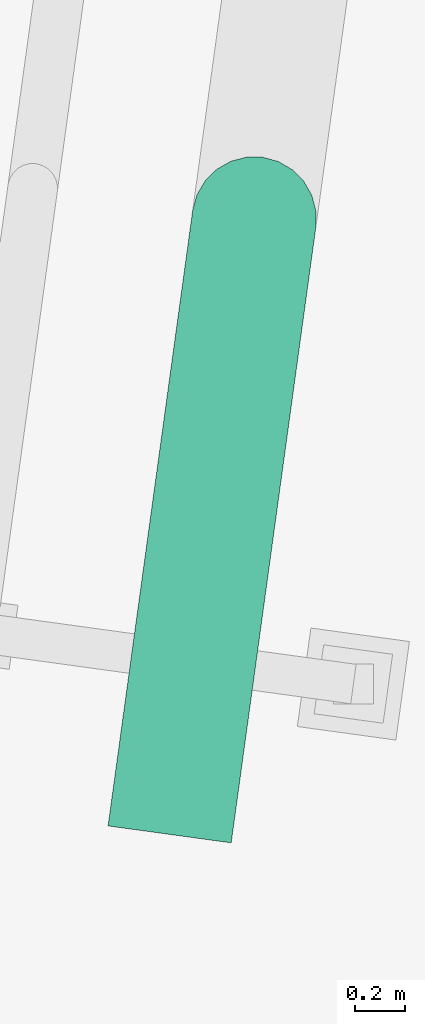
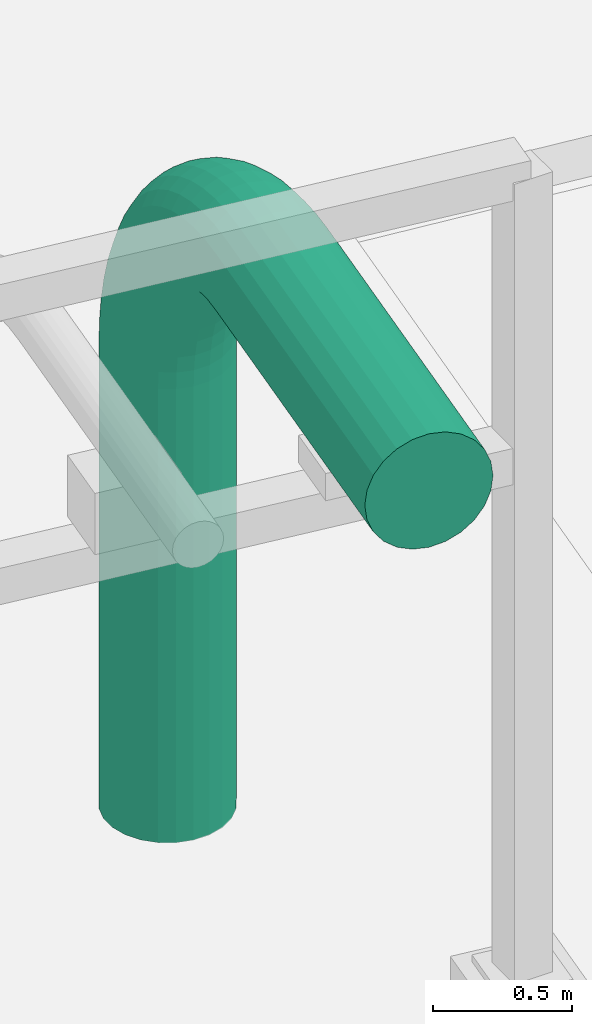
# Not in any storey, part 28 of 75: 1 pipe segment.
"""IFC4 model written with IfcOpenShell, lengths in metres."""

from ifc_helpers import new_model, si_unit, direction, origin, origin_with_axes, place, context, subcontext, project, spatial, triangles, element, save


model = new_model("IFC4")

# Units and contexts
model_context = context("Model", 3, precision=1e-05, world=origin_with_axes(), true_north=direction((0.0, 1.0)))
body_context = subcontext(model_context, "Body", "Model", "MODEL_VIEW")
ifc_project = project(units=[si_unit("AREAUNIT", "SQUARE_METRE"), si_unit("VOLUMEUNIT", "CUBIC_METRE"), si_unit("LENGTHUNIT", "METRE")], contexts=[model_context])

# Site
site_placement = place(None, origin_with_axes())
site = spatial("IfcSite", under=ifc_project, at=site_placement, Name="Parcela industrial Jinhong")

# Pipe segment
pipe_segment_placement = place(None, origin())
element("IfcPipeSegment", 1, at=pipe_segment_placement, inside=site, Name="Nitrógeno Ø 0,5 m · salida exterior", ObjectType="Nitrógeno Ø 0,5 m · salida exterior", PredefinedType="USERDEFINED", context=body_context, shape_type="Tessellation", body=[
    triangles([(52.224227, -13.923038, 0.917728), (52.224601, -13.857776, 0.917728), (52.208071, -13.794641, 0.917728), (52.175763, -13.737935, 0.917728), (52.129881, -13.691524, 0.917728), (52.073549, -13.658569, 0.917728), (52.010607, -13.641317, 0.917728), (51.945345, -13.640943, 0.917728), (51.88221, -13.657473, 0.917728), (51.825505, -13.68978, 0.917728), (51.779093, -13.735663, 0.917728), (51.746138, -13.791994, 0.917728), (51.728886, -13.854936, 0.917728), (51.728512, -13.920198, 0.917728), (51.745042, -13.983333, 0.917728), (51.77735, -14.040038, 0.917728), (51.823232, -14.08645, 0.917728), (51.879564, -14.119405, 0.917728), (51.942505, -14.136657, 0.917728), (52.007768, -14.137031, 0.917728), (52.070903, -14.120501, 0.917728), (52.127608, -14.088194, 0.917728), (52.17402, -14.042311, 0.917728), (52.206974, -13.985979, 0.917728), (52.224227, -13.923038, 2.917728), (52.224601, -13.857776, 2.917877), (52.208071, -13.794641, 2.918015), (52.175763, -13.737936, 2.918134), (52.12988, -13.691524, 2.918225), (52.073549, -13.658569, 2.918283), (52.010607, -13.641317, 2.918302), (51.945345, -13.640943, 2.918283), (51.88221, -13.657473, 2.918225), (51.825505, -13.68978, 2.918134), (51.779093, -13.735663, 2.918015), (51.746138, -13.791995, 2.917877), (51.728886, -13.854936, 2.917728), (51.728512, -13.920198, 2.91758), (51.745042, -13.983333, 2.917442), (51.77735, -14.040038, 2.917323), (51.823232, -14.08645, 2.917232), (51.879564, -14.119404, 2.917174), (51.942506, -14.136656, 2.917155), (52.007768, -14.13703, 2.917174), (52.070903, -14.1205, 2.917232), (52.127608, -14.088193, 2.917323), (52.17402, -14.042311, 2.917442), (52.206974, -13.985979, 2.91758), (52.223571, -13.927808, 3.015746), (52.223902, -13.862855, 3.022088), (52.207333, -13.800007, 3.027998), (52.174992, -13.743549, 3.033073), (52.129083, -13.697327, 3.036967), (52.072735, -13.664491, 3.039415), (52.009788, -13.64728, 3.04025), (51.944531, -13.646865, 3.039415), (51.881413, -13.663276, 3.036967), (51.824733, -13.695394, 3.033073), (51.778355, -13.741029, 3.027998), (51.74544, -13.797073, 3.022088), (51.72823, -13.859706, 3.015746), (51.727899, -13.92466, 3.009403), (51.744468, -13.987507, 3.003493), (51.77681, -14.043966, 2.998418), (51.822718, -14.090188, 2.994524), (51.879067, -14.123023, 2.992076), (51.942014, -14.140235, 2.991241), (52.00727, -14.140649, 2.992076), (52.070389, -14.124239, 2.994524), (52.127068, -14.092121, 2.998418), (52.173446, -14.046485, 3.003493), (52.206361, -13.990441, 3.009403), (52.22161, -13.942074, 3.112819), (52.221814, -13.878043, 3.125442), (52.205126, -13.816056, 3.137205), (52.172684, -13.760336, 3.147306), (52.126697, -13.714681, 3.155057), (52.0703, -13.682201, 3.159929), (52.007336, -13.665111, 3.161591), (51.942096, -13.664575, 3.159929), (51.879027, -13.68063, 3.155057), (51.822425, -13.712181, 3.147306), (51.776149, -13.757078, 3.137205), (51.743352, -13.812262, 3.125442), (51.726269, -13.873972, 3.112819), (51.726065, -13.938002, 3.100195), (51.742752, -13.999989, 3.088432), (51.775195, -14.055709, 3.078331), (51.821182, -14.101364, 3.07058), (51.877579, -14.133844, 3.065708), (51.940543, -14.150934, 3.064046), (52.005782, -14.15147, 3.065708), (52.068852, -14.135415, 3.07058), (52.125454, -14.103864, 3.078331), (52.17173, -14.058967, 3.088432), (52.204527, -14.003783, 3.100195), (52.218362, -13.965696, 3.208013), (52.218356, -13.903194, 3.226796), (52.201473, -13.842631, 3.244299), (52.168862, -13.788135, 3.259329), (52.122746, -13.743418, 3.270862), (52.066268, -13.711528, 3.278111), (52.003276, -13.69464, 3.280584), (51.938064, -13.693902, 3.278111), (51.875076, -13.709367, 3.270862), (51.818603, -13.739979, 3.259329), (51.772495, -13.783653, 3.244299), (51.739894, -13.837413, 3.226796), (51.723021, -13.897594, 3.208013), (51.723027, -13.960096, 3.18923), (51.739911, -14.020659, 3.171728), (51.772521, -14.075156, 3.156698), (51.818637, -14.119873, 3.145165), (51.875115, -14.151762, 3.137915), (51.938107, -14.168651, 3.135442), (52.003319, -14.169388, 3.137915), (52.066307, -14.153924, 3.145165), (52.12278, -14.123311, 3.156698), (52.168888, -14.079637, 3.171728), (52.201489, -14.025878, 3.18923), (52.213859, -13.998449, 3.300412), (52.213562, -13.938066, 3.325173), (52.196407, -13.879478, 3.348247), (52.163563, -13.826677, 3.368061), (52.117268, -13.783262, 3.383265), (52.060677, -13.75219, 3.392823), (51.997648, -13.735581, 3.396083), (51.932474, -13.734564, 3.392823), (51.869598, -13.749211, 3.383265), (51.813304, -13.778522, 3.368061), (51.767429, -13.8205, 3.348247), (51.7351, -13.872285, 3.325173), (51.718518, -13.930347, 3.300412), (51.718815, -13.99073, 3.27565), (51.73597, -14.049318, 3.252576), (51.768814, -14.102119, 3.232762), (51.815109, -14.145534, 3.217558), (51.8717, -14.176606, 3.208001), (51.93473, -14.193215, 3.204741), (51.999903, -14.194232, 3.208001), (52.062779, -14.179585, 3.217558), (52.119073, -14.150274, 3.232762), (52.164948, -14.108296, 3.252576), (52.197277, -14.056511, 3.27565), (52.208144, -14.040016, 3.389125), (52.207477, -13.982323, 3.419627), (52.189978, -13.926241, 3.44805), (52.156838, -13.875593, 3.472457), (52.110316, -13.833829, 3.491186), (52.053582, -13.803795, 3.502959), (51.990504, -13.78754, 3.506974), (51.925379, -13.786169, 3.502959), (51.862646, -13.799778, 3.491186), (51.806579, -13.827437, 3.472457), (51.761, -13.867263, 3.44805), (51.729015, -13.916542, 3.419627), (51.712803, -13.971914, 3.389125), (51.71347, -14.029607, 3.358624), (51.73097, -14.085689, 3.330201), (51.76411, -14.136338, 3.305793), (51.810632, -14.178102, 3.287065), (51.867365, -14.208135, 3.275292), (51.930443, -14.224391, 3.271276), (51.995568, -14.225761, 3.275292), (52.058302, -14.212153, 3.287065), (52.114368, -14.184493, 3.305793), (52.159947, -14.144667, 3.330201), (52.191932, -14.095389, 3.358624), (52.201272, -14.089998, 3.473299), (52.200161, -14.035539, 3.509247), (52.182247, -13.982471, 3.542745), (52.148751, -13.93441, 3.571511), (52.101956, -13.894631, 3.593583), (52.045051, -13.865846, 3.607459), (51.981914, -13.850016, 3.612191), (51.916848, -13.84822, 3.607459), (51.854286, -13.86058, 3.593583), (51.798493, -13.886254, 3.571511), (51.753269, -13.923493, 3.542745), (51.721699, -13.969757, 3.509247), (51.705932, -14.021896, 3.473299), (51.707043, -14.076355, 3.437351), (51.724957, -14.129423, 3.403852), (51.758453, -14.177484, 3.375087), (51.805248, -14.217262, 3.353014), (51.862153, -14.246047, 3.339139), (51.92529, -14.261877, 3.334406), (51.990356, -14.263673, 3.339139), (52.052918, -14.251313, 3.353014), (52.108711, -14.225639, 3.375087), (52.153934, -14.188401, 3.403852), (52.185505, -14.142136, 3.437351), (52.19331, -14.147912, 3.552122), (52.191683, -14.0972, 3.59317), (52.173289, -14.047624, 3.631421), (52.139381, -14.002562, 3.664268), (52.09227, -13.965085, 3.689472), (52.035166, -13.937746, 3.705316), (51.971961, -13.922409, 3.71072), (51.906963, -13.92012, 3.705316), (51.8446, -13.931034, 3.689472), (51.789123, -13.954407, 3.664268), (51.744312, -13.988646, 3.631421), (51.713221, -14.031419, 3.59317), (51.697969, -14.07981, 3.552122), (51.699596, -14.130522, 3.511073), (51.71799, -14.180098, 3.472823), (51.751898, -14.22516, 3.439976), (51.799009, -14.262638, 3.414772), (51.856113, -14.289976, 3.398928), (51.919318, -14.305313, 3.393523), (51.984317, -14.307602, 3.398928), (52.046679, -14.296689, 3.414772), (52.102157, -14.273316, 3.439976), (52.146967, -14.239076, 3.472823), (52.178058, -14.196303, 3.511073), (52.184333, -14.213202, 3.624835), (52.182126, -14.166714, 3.670588), (52.163191, -14.121075, 3.713224), (52.128818, -14.079393, 3.749835), (52.08135, -14.04451, 3.777928), (52.024022, -14.018802, 3.795588), (51.960741, -14.004021, 3.801612), (51.895819, -14.001176, 3.795588), (51.83368, -14.010459, 3.777928), (51.778559, -14.031238, 3.749835), (51.734213, -14.062097, 3.713224), (51.703664, -14.100933, 3.670588), (51.688993, -14.1451, 3.624835), (51.6912, -14.191587, 3.579082), (51.710136, -14.237226, 3.536447), (51.744509, -14.278908, 3.499835), (51.791976, -14.313791, 3.471742), (51.849304, -14.339499, 3.454082), (51.912586, -14.35428, 3.448059), (51.977508, -14.357126, 3.454082), (52.039646, -14.347842, 3.471742), (52.094767, -14.327063, 3.499835), (52.139113, -14.296204, 3.536447), (52.169663, -14.257368, 3.579082), (52.17443, -14.285237, 3.690739), (52.171581, -14.243411, 3.740756), (52.152049, -14.202115, 3.787365), (52.117163, -14.164163, 3.827389), (52.069302, -14.132142, 3.858101), (52.011727, -14.108233, 3.877407), (51.948361, -14.094066, 3.883992), (51.883523, -14.090607, 3.877407), (51.821632, -14.098091, 3.858101), (51.766905, -14.116008, 3.827389), (51.723072, -14.143137, 3.787365), (51.693119, -14.17763, 3.740756), (51.679089, -14.217135, 3.690739), (51.681937, -14.258961, 3.640721), (51.70147, -14.300258, 3.594113), (51.736355, -14.33821, 3.554089), (51.784217, -14.370231, 3.523377), (51.841792, -14.39414, 3.504071), (51.905158, -14.408307, 3.497486), (51.969996, -14.411766, 3.504071), (52.031887, -14.404282, 3.523377), (52.086614, -14.386365, 3.554089), (52.130447, -14.359236, 3.594113), (52.1604, -14.324743, 3.640721), (52.163694, -14.363326, 3.749198), (52.160151, -14.326553, 3.802998), (52.139971, -14.289965, 3.853132), (52.10453, -14.256056, 3.896182), (52.056242, -14.227137, 3.929217), (51.998398, -14.205178, 3.949983), (51.934941, -14.191677, 3.957065), (51.870195, -14.187552, 3.949983), (51.808572, -14.193086, 3.929217), (51.754271, -14.207901, 3.896182), (51.710994, -14.230987, 3.853132), (51.681689, -14.260771, 3.802998), (51.668353, -14.295224, 3.749198), (51.671896, -14.331997, 3.695398), (51.692076, -14.368585, 3.645264), (51.727517, -14.402494, 3.602214), (51.775805, -14.431413, 3.56918), (51.833649, -14.453372, 3.548414), (51.897106, -14.466873, 3.541331), (51.961852, -14.470998, 3.548414), (52.023475, -14.465464, 3.56918), (52.077776, -14.450649, 3.602214), (52.121053, -14.427563, 3.645264), (52.150358, -14.397779, 3.695398), (52.152229, -14.446715, 3.79965), (52.147944, -14.415337, 3.856714), (52.127073, -14.383778, 3.90989), (52.091038, -14.354186, 3.955553), (52.042295, -14.32858, 3.990591), (51.984165, -14.308704, 4.012617), (51.92061, -14.295913, 4.02013), (51.855961, -14.291078, 4.012617), (51.794625, -14.294529, 3.990591), (51.74078, -14.306031, 3.955553), (51.698096, -14.3248, 3.90989), (51.669482, -14.349556, 3.856714), (51.656888, -14.378613, 3.79965), (51.661173, -14.409991, 3.742585), (51.682044, -14.44155, 3.68941), (51.718079, -14.471142, 3.643747), (51.766823, -14.496748, 3.608708), (51.824952, -14.516624, 3.586682), (51.888507, -14.529415, 3.579169), (51.953156, -14.53425, 3.586682), (52.014493, -14.530799, 3.608708), (52.068338, -14.519297, 3.643747), (52.111022, -14.500528, 3.68941), (52.139635, -14.475772, 3.742585), (52.140146, -14.534602, 3.841608), (52.135079, -14.508911, 3.901387), (52.11348, -14.48265, 3.957093), (52.076819, -14.457609, 4.004928), (52.027596, -14.435495, 4.041634), (51.969164, -14.417814, 4.064708), (51.905506, -14.405771, 4.072578), (51.840961, -14.400188, 4.064708), (51.779925, -14.401444, 4.041634), (51.72656, -14.409454, 4.004928), (51.684502, -14.423672, 3.957093), (51.656617, -14.443129, 3.901387), (51.644805, -14.4665, 3.841608), (51.649872, -14.492191, 3.781829), (51.671471, -14.518451, 3.726123), (51.708132, -14.543492, 3.678288), (51.757355, -14.565606, 3.641582), (51.815787, -14.583287, 3.618508), (51.879445, -14.59533, 3.610638), (51.943991, -14.600913, 3.618508), (52.005026, -14.599657, 3.641582), (52.058391, -14.591647, 3.678288), (52.100449, -14.577429, 3.726123), (52.128334, -14.557972, 3.781829), (52.127561, -14.626139, 3.874669), (52.12168, -14.606371, 3.936587), (52.099321, -14.58563, 3.994286), (52.062009, -14.565329, 4.043834), (52.012286, -14.546851, 4.081852), (51.95354, -14.531456, 4.105752), (51.889775, -14.520193, 4.113904), (51.825336, -14.51383, 4.105752), (51.764616, -14.5128, 4.081852), (51.711751, -14.517173, 4.043834), (51.670344, -14.526652, 3.994286), (51.643218, -14.54059, 3.936587), (51.63222, -14.558037, 3.874669), (51.638101, -14.577805, 3.81275), (51.66046, -14.598547, 3.755051), (51.697772, -14.618848, 3.705504), (51.747495, -14.637326, 3.667485), (51.806241, -14.65272, 3.643585), (51.870006, -14.663983, 3.635434), (51.934445, -14.670346, 3.643585), (51.995165, -14.671377, 3.667485), (52.04803, -14.667003, 3.705504), (52.089437, -14.657525, 3.755051), (52.116563, -14.643587, 3.81275), (52.114595, -14.720446, 3.898514), (52.107875, -14.706781, 3.961975), (52.084735, -14.691725, 4.021112), (52.046751, -14.676307, 4.071894), (51.996513, -14.661576, 4.11086), (51.937443, -14.648537, 4.135355), (51.873568, -14.638077, 4.14371), (51.80924, -14.630911, 4.135355), (51.748843, -14.627525, 4.11086), (51.696493, -14.628152, 4.071894), (51.655757, -14.632747, 4.021112), (51.629413, -14.640999, 3.961975), (51.619254, -14.652344, 3.898514), (51.625974, -14.66601, 3.835052), (51.649114, -14.681065, 3.775916), (51.687098, -14.696484, 3.725134), (51.737337, -14.711215, 3.686167), (51.796406, -14.724254, 3.661672), (51.860282, -14.734714, 3.653317), (51.92461, -14.74188, 3.661672), (51.985007, -14.745266, 3.686167), (52.037357, -14.744639, 3.725134), (52.078092, -14.740044, 3.775916), (52.104436, -14.731792, 3.835052), (52.101373, -14.816615, 3.912913), (52.093798, -14.809172, 3.977306), (52.06986, -14.799915, 4.037311), (52.031192, -14.789476, 4.088839), (51.980428, -14.778566, 4.128377), (51.921029, -14.767928, 4.153232), (51.85704, -14.758288, 4.161709), (51.792825, -14.750302, 4.153232), (51.732758, -14.744515, 4.128377), (51.680934, -14.741321, 4.088839), (51.640883, -14.740937, 4.037311), (51.615336, -14.74339, 3.977306), (51.606033, -14.748513, 3.912913), (51.613608, -14.755956, 3.84852), (51.637545, -14.765213, 3.788515), (51.676214, -14.775652, 3.736988), (51.726977, -14.786562, 3.697449), (51.786377, -14.7972, 3.672595), (51.850365, -14.80684, 3.664117), (51.914581, -14.814826, 3.672595), (51.974648, -14.820613, 3.697449), (52.026472, -14.823807, 3.736988), (52.066523, -14.824191, 3.788515), (52.09207, -14.821738, 3.84852), (52.088023, -14.913719, 3.917728), (52.07961, -14.912365, 3.982433), (52.054893, -14.908784, 4.042728), (52.015554, -14.903218, 4.094504), (51.964277, -14.896047, 4.134234), (51.904553, -14.88776, 4.159209), (51.840455, -14.878921, 4.167727), (51.77635, -14.870134, 4.159209), (51.716606, -14.861996, 4.134234), (51.665296, -14.855062, 4.094504), (51.625915, -14.849806, 4.042728), (51.601148, -14.846584, 3.982433), (51.592682, -14.845617, 3.917728), (51.601095, -14.84697, 3.853024), (51.625813, -14.850552, 3.792729), (51.665151, -14.856118, 3.740953), (51.716429, -14.863289, 3.701223), (51.776152, -14.871576, 3.676248), (51.84025, -14.880414, 3.66773), (51.904355, -14.889202, 3.676248), (51.964099, -14.89734, 3.701223), (52.015409, -14.904273, 3.740953), (52.05479, -14.90953, 3.792729), (52.079557, -14.912752, 3.853024), (51.883717, -16.39974, 3.917728), (51.875278, -16.39858, 3.982433), (51.850535, -16.395178, 4.042728), (51.811176, -16.389767, 4.094505), (51.759882, -16.382714, 4.134235), (51.700149, -16.374502, 4.15921), (51.636047, -16.365689, 4.167728), (51.571945, -16.356876, 4.15921), (51.512212, -16.348663, 4.134235), (51.460917, -16.341611, 4.094505), (51.421558, -16.3362, 4.042728), (51.396816, -16.332798, 3.982433), (51.388377, -16.331638, 3.917728), (51.396816, -16.332798, 3.853024), (51.421558, -16.3362, 3.792728), (51.460917, -16.341611, 3.740952), (51.512212, -16.348663, 3.701222), (51.571945, -16.356876, 3.676247), (51.636047, -16.365689, 3.667728), (51.700149, -16.374502, 3.676247), (51.759882, -16.382714, 3.701222), (51.811176, -16.389767, 3.740952), (51.850535, -16.395178, 3.792728), (51.875278, -16.39858, 3.853024), (51.976556, -13.888987, 0.917728), (51.636047, -16.365689, 3.917728)], [[1, 2, 26], [1, 26, 25], [2, 3, 27], [2, 27, 26], [3, 4, 28], [3, 28, 27], [4, 5, 29], [4, 29, 28], [5, 6, 30], [5, 30, 29], [6, 7, 31], [6, 31, 30], [7, 8, 32], [7, 32, 31], [8, 9, 33], [8, 33, 32], [9, 10, 34], [9, 34, 33], [10, 11, 35], [10, 35, 34], [11, 12, 36], [11, 36, 35], [12, 13, 37], [12, 37, 36], [13, 14, 38], [13, 38, 37], [14, 15, 39], [14, 39, 38], [15, 16, 40], [15, 40, 39], [16, 17, 41], [16, 41, 40], [17, 18, 42], [17, 42, 41], [18, 19, 43], [18, 43, 42], [19, 20, 44], [19, 44, 43], [20, 21, 45], [20, 45, 44], [21, 22, 46], [21, 46, 45], [22, 23, 47], [22, 47, 46], [23, 24, 48], [23, 48, 47], [24, 1, 25], [24, 25, 48], [25, 26, 50], [25, 50, 49], [26, 27, 51], [26, 51, 50], [27, 28, 52], [27, 52, 51], [28, 29, 53], [28, 53, 52], [29, 30, 54], [29, 54, 53], [30, 31, 55], [30, 55, 54], [31, 32, 56], [31, 56, 55], [32, 33, 57], [32, 57, 56], [33, 34, 58], [33, 58, 57], [34, 35, 59], [34, 59, 58], [35, 36, 60], [35, 60, 59], [36, 37, 61], [36, 61, 60], [37, 38, 62], [37, 62, 61], [38, 39, 63], [38, 63, 62], [39, 40, 64], [39, 64, 63], [40, 41, 65], [40, 65, 64], [41, 42, 66], [41, 66, 65], [42, 43, 67], [42, 67, 66], [43, 44, 68], [43, 68, 67], [44, 45, 69], [44, 69, 68], [45, 46, 70], [45, 70, 69], [46, 47, 71], [46, 71, 70], [47, 48, 72], [47, 72, 71], [48, 25, 49], [48, 49, 72], [49, 50, 74], [49, 74, 73], [50, 51, 75], [50, 75, 74], [51, 52, 76], [51, 76, 75], [52, 53, 77], [52, 77, 76], [53, 54, 78], [53, 78, 77], [54, 55, 79], [54, 79, 78], [55, 56, 80], [55, 80, 79], [56, 57, 81], [56, 81, 80], [57, 58, 82], [57, 82, 81], [58, 59, 83], [58, 83, 82], [59, 60, 84], [59, 84, 83], [60, 61, 85], [60, 85, 84], [61, 62, 86], [61, 86, 85], [62, 63, 87], [62, 87, 86], [63, 64, 88], [63, 88, 87], [64, 65, 89], [64, 89, 88], [65, 66, 90], [65, 90, 89], [66, 67, 91], [66, 91, 90], [67, 68, 92], [67, 92, 91], [68, 69, 93], [68, 93, 92], [69, 70, 94], [69, 94, 93], [70, 71, 95], [70, 95, 94], [71, 72, 96], [71, 96, 95], [72, 49, 73], [72, 73, 96], [73, 74, 98], [73, 98, 97], [74, 75, 99], [74, 99, 98], [75, 76, 100], [75, 100, 99], [76, 77, 101], [76, 101, 100], [77, 78, 102], [77, 102, 101], [78, 79, 103], [78, 103, 102], [79, 80, 104], [79, 104, 103], [80, 81, 105], [80, 105, 104], [81, 82, 106], [81, 106, 105], [82, 83, 107], [82, 107, 106], [83, 84, 108], [83, 108, 107], [84, 85, 109], [84, 109, 108], [85, 86, 110], [85, 110, 109], [86, 87, 111], [86, 111, 110], [87, 88, 112], [87, 112, 111], [88, 89, 113], [88, 113, 112], [89, 90, 114], [89, 114, 113], [90, 91, 115], [90, 115, 114], [91, 92, 116], [91, 116, 115], [92, 93, 117], [92, 117, 116], [93, 94, 118], [93, 118, 117], [94, 95, 119], [94, 119, 118], [95, 96, 120], [95, 120, 119], [96, 73, 97], [96, 97, 120], [97, 98, 122], [97, 122, 121], [98, 99, 123], [98, 123, 122], [99, 100, 124], [99, 124, 123], [100, 101, 125], [100, 125, 124], [101, 102, 126], [101, 126, 125], [102, 103, 127], [102, 127, 126], [103, 104, 128], [103, 128, 127], [104, 105, 129], [104, 129, 128], [105, 106, 130], [105, 130, 129], [106, 107, 131], [106, 131, 130], [107, 108, 132], [107, 132, 131], [108, 109, 133], [108, 133, 132], [109, 110, 134], [109, 134, 133], [110, 111, 135], [110, 135, 134], [111, 112, 136], [111, 136, 135], [112, 113, 137], [112, 137, 136], [113, 114, 138], [113, 138, 137], [114, 115, 139], [114, 139, 138], [115, 116, 140], [115, 140, 139], [116, 117, 141], [116, 141, 140], [117, 118, 142], [117, 142, 141], [118, 119, 143], [118, 143, 142], [119, 120, 144], [119, 144, 143], [120, 97, 121], [120, 121, 144], [121, 122, 146], [121, 146, 145], [122, 123, 147], [122, 147, 146], [123, 124, 148], [123, 148, 147], [124, 125, 149], [124, 149, 148], [125, 126, 150], [125, 150, 149], [126, 127, 151], [126, 151, 150], [127, 128, 152], [127, 152, 151], [128, 129, 153], [128, 153, 152], [129, 130, 154], [129, 154, 153], [130, 131, 155], [130, 155, 154], [131, 132, 156], [131, 156, 155], [132, 133, 157], [132, 157, 156], [133, 134, 158], [133, 158, 157], [134, 135, 159], [134, 159, 158], [135, 136, 160], [135, 160, 159], [136, 137, 161], [136, 161, 160], [137, 138, 162], [137, 162, 161], [138, 139, 163], [138, 163, 162], [139, 140, 164], [139, 164, 163], [140, 141, 165], [140, 165, 164], [141, 142, 166], [141, 166, 165], [142, 143, 167], [142, 167, 166], [143, 144, 168], [143, 168, 167], [144, 121, 145], [144, 145, 168], [145, 146, 170], [145, 170, 169], [146, 147, 171], [146, 171, 170], [147, 148, 172], [147, 172, 171], [148, 149, 173], [148, 173, 172], [149, 150, 174], [149, 174, 173], [150, 151, 175], [150, 175, 174], [151, 152, 176], [151, 176, 175], [152, 153, 177], [152, 177, 176], [153, 154, 178], [153, 178, 177], [154, 155, 179], [154, 179, 178], [155, 156, 180], [155, 180, 179], [156, 157, 181], [156, 181, 180], [157, 158, 182], [157, 182, 181], [158, 159, 183], [158, 183, 182], [159, 160, 184], [159, 184, 183], [160, 161, 185], [160, 185, 184], [161, 162, 186], [161, 186, 185], [162, 163, 187], [162, 187, 186], [163, 164, 188], [163, 188, 187], [164, 165, 189], [164, 189, 188], [165, 166, 190], [165, 190, 189], [166, 167, 191], [166, 191, 190], [167, 168, 192], [167, 192, 191], [168, 145, 169], [168, 169, 192], [169, 170, 194], [169, 194, 193], [170, 171, 195], [170, 195, 194], [171, 172, 196], [171, 196, 195], [172, 173, 197], [172, 197, 196], [173, 174, 198], [173, 198, 197], [174, 175, 199], [174, 199, 198], [175, 176, 200], [175, 200, 199], [176, 177, 201], [176, 201, 200], [177, 178, 202], [177, 202, 201], [178, 179, 203], [178, 203, 202], [179, 180, 204], [179, 204, 203], [180, 181, 205], [180, 205, 204], [181, 182, 206], [181, 206, 205], [182, 183, 207], [182, 207, 206], [183, 184, 208], [183, 208, 207], [184, 185, 209], [184, 209, 208], [185, 186, 210], [185, 210, 209], [186, 187, 211], [186, 211, 210], [187, 188, 212], [187, 212, 211], [188, 189, 213], [188, 213, 212], [189, 190, 214], [189, 214, 213], [190, 191, 215], [190, 215, 214], [191, 192, 216], [191, 216, 215], [192, 169, 193], [192, 193, 216], [193, 194, 218], [193, 218, 217], [194, 195, 219], [194, 219, 218], [195, 196, 220], [195, 220, 219], [196, 197, 221], [196, 221, 220], [197, 198, 222], [197, 222, 221], [198, 199, 223], [198, 223, 222], [199, 200, 224], [199, 224, 223], [200, 201, 225], [200, 225, 224], [201, 202, 226], [201, 226, 225], [202, 203, 227], [202, 227, 226], [203, 204, 228], [203, 228, 227], [204, 205, 229], [204, 229, 228], [205, 206, 230], [205, 230, 229], [206, 207, 231], [206, 231, 230], [207, 208, 232], [207, 232, 231], [208, 209, 233], [208, 233, 232], [209, 210, 234], [209, 234, 233], [210, 211, 235], [210, 235, 234], [211, 212, 236], [211, 236, 235], [212, 213, 237], [212, 237, 236], [213, 214, 238], [213, 238, 237], [214, 215, 239], [214, 239, 238], [215, 216, 240], [215, 240, 239], [216, 193, 217], [216, 217, 240], [217, 218, 242], [217, 242, 241], [218, 219, 243], [218, 243, 242], [219, 220, 244], [219, 244, 243], [220, 221, 245], [220, 245, 244], [221, 222, 246], [221, 246, 245], [222, 223, 247], [222, 247, 246], [223, 224, 248], [223, 248, 247], [224, 225, 249], [224, 249, 248], [225, 226, 250], [225, 250, 249], [226, 227, 251], [226, 251, 250], [227, 228, 252], [227, 252, 251], [228, 229, 253], [228, 253, 252], [229, 230, 254], [229, 254, 253], [230, 231, 255], [230, 255, 254], [231, 232, 256], [231, 256, 255], [232, 233, 257], [232, 257, 256], [233, 234, 258], [233, 258, 257], [234, 235, 259], [234, 259, 258], [235, 236, 260], [235, 260, 259], [236, 237, 261], [236, 261, 260], [237, 238, 262], [237, 262, 261], [238, 239, 263], [238, 263, 262], [239, 240, 264], [239, 264, 263], [240, 217, 241], [240, 241, 264], [241, 242, 266], [241, 266, 265], [242, 243, 267], [242, 267, 266], [243, 244, 268], [243, 268, 267], [244, 245, 269], [244, 269, 268], [245, 246, 270], [245, 270, 269], [246, 247, 271], [246, 271, 270], [247, 248, 272], [247, 272, 271], [248, 249, 273], [248, 273, 272], [249, 250, 274], [249, 274, 273], [250, 251, 275], [250, 275, 274], [251, 252, 276], [251, 276, 275], [252, 253, 277], [252, 277, 276], [253, 254, 278], [253, 278, 277], [254, 255, 279], [254, 279, 278], [255, 256, 280], [255, 280, 279], [256, 257, 281], [256, 281, 280], [257, 258, 282], [257, 282, 281], [258, 259, 283], [258, 283, 282], [259, 260, 284], [259, 284, 283], [260, 261, 285], [260, 285, 284], [261, 262, 286], [261, 286, 285], [262, 263, 287], [262, 287, 286], [263, 264, 288], [263, 288, 287], [264, 241, 265], [264, 265, 288], [265, 266, 290], [265, 290, 289], [266, 267, 291], [266, 291, 290], [267, 268, 292], [267, 292, 291], [268, 269, 293], [268, 293, 292], [269, 270, 294], [269, 294, 293], [270, 271, 295], [270, 295, 294], [271, 272, 296], [271, 296, 295], [272, 273, 297], [272, 297, 296], [273, 274, 298], [273, 298, 297], [274, 275, 299], [274, 299, 298], [275, 276, 300], [275, 300, 299], [276, 277, 301], [276, 301, 300], [277, 278, 302], [277, 302, 301], [278, 279, 303], [278, 303, 302], [279, 280, 304], [279, 304, 303], [280, 281, 305], [280, 305, 304], [281, 282, 306], [281, 306, 305], [282, 283, 307], [282, 307, 306], [283, 284, 308], [283, 308, 307], [284, 285, 309], [284, 309, 308], [285, 286, 310], [285, 310, 309], [286, 287, 311], [286, 311, 310], [287, 288, 312], [287, 312, 311], [288, 265, 289], [288, 289, 312], [289, 290, 314], [289, 314, 313], [290, 291, 315], [290, 315, 314], [291, 292, 316], [291, 316, 315], [292, 293, 317], [292, 317, 316], [293, 294, 318], [293, 318, 317], [294, 295, 319], [294, 319, 318], [295, 296, 320], [295, 320, 319], [296, 297, 321], [296, 321, 320], [297, 298, 322], [297, 322, 321], [298, 299, 323], [298, 323, 322], [299, 300, 324], [299, 324, 323], [300, 301, 325], [300, 325, 324], [301, 302, 326], [301, 326, 325], [302, 303, 327], [302, 327, 326], [303, 304, 328], [303, 328, 327], [304, 305, 329], [304, 329, 328], [305, 306, 330], [305, 330, 329], [306, 307, 331], [306, 331, 330], [307, 308, 332], [307, 332, 331], [308, 309, 333], [308, 333, 332], [309, 310, 334], [309, 334, 333], [310, 311, 335], [310, 335, 334], [311, 312, 336], [311, 336, 335], [312, 289, 313], [312, 313, 336], [313, 314, 338], [313, 338, 337], [314, 315, 339], [314, 339, 338], [315, 316, 340], [315, 340, 339], [316, 317, 341], [316, 341, 340], [317, 318, 342], [317, 342, 341], [318, 319, 343], [318, 343, 342], [319, 320, 344], [319, 344, 343], [320, 321, 345], [320, 345, 344], [321, 322, 346], [321, 346, 345], [322, 323, 347], [322, 347, 346], [323, 324, 348], [323, 348, 347], [324, 325, 349], [324, 349, 348], [325, 326, 350], [325, 350, 349], [326, 327, 351], [326, 351, 350], [327, 328, 352], [327, 352, 351], [328, 329, 353], [328, 353, 352], [329, 330, 354], [329, 354, 353], [330, 331, 355], [330, 355, 354], [331, 332, 356], [331, 356, 355], [332, 333, 357], [332, 357, 356], [333, 334, 358], [333, 358, 357], [334, 335, 359], [334, 359, 358], [335, 336, 360], [335, 360, 359], [336, 313, 337], [336, 337, 360], [337, 338, 362], [337, 362, 361], [338, 339, 363], [338, 363, 362], [339, 340, 364], [339, 364, 363], [340, 341, 365], [340, 365, 364], [341, 342, 366], [341, 366, 365], [342, 343, 367], [342, 367, 366], [343, 344, 368], [343, 368, 367], [344, 345, 369], [344, 369, 368], [345, 346, 370], [345, 370, 369], [346, 347, 371], [346, 371, 370], [347, 348, 372], [347, 372, 371], [348, 349, 373], [348, 373, 372], [349, 350, 374], [349, 374, 373], [350, 351, 375], [350, 375, 374], [351, 352, 376], [351, 376, 375], [352, 353, 377], [352, 377, 376], [353, 354, 378], [353, 378, 377], [354, 355, 379], [354, 379, 378], [355, 356, 380], [355, 380, 379], [356, 357, 381], [356, 381, 380], [357, 358, 382], [357, 382, 381], [358, 359, 383], [358, 383, 382], [359, 360, 384], [359, 384, 383], [360, 337, 361], [360, 361, 384], [361, 362, 386], [361, 386, 385], [362, 363, 387], [362, 387, 386], [363, 364, 388], [363, 388, 387], [364, 365, 389], [364, 389, 388], [365, 366, 390], [365, 390, 389], [366, 367, 391], [366, 391, 390], [367, 368, 392], [367, 392, 391], [368, 369, 393], [368, 393, 392], [369, 370, 394], [369, 394, 393], [370, 371, 395], [370, 395, 394], [371, 372, 396], [371, 396, 395], [372, 373, 397], [372, 397, 396], [373, 374, 398], [373, 398, 397], [374, 375, 399], [374, 399, 398], [375, 376, 400], [375, 400, 399], [376, 377, 401], [376, 401, 400], [377, 378, 402], [377, 402, 401], [378, 379, 403], [378, 403, 402], [379, 380, 404], [379, 404, 403], [380, 381, 405], [380, 405, 404], [381, 382, 406], [381, 406, 405], [382, 383, 407], [382, 407, 406], [383, 384, 408], [383, 408, 407], [384, 361, 385], [384, 385, 408], [385, 386, 410], [385, 410, 409], [386, 387, 411], [386, 411, 410], [387, 388, 412], [387, 412, 411], [388, 389, 413], [388, 413, 412], [389, 390, 414], [389, 414, 413], [390, 391, 415], [390, 415, 414], [391, 392, 416], [391, 416, 415], [392, 393, 417], [392, 417, 416], [393, 394, 418], [393, 418, 417], [394, 395, 419], [394, 419, 418], [395, 396, 420], [395, 420, 419], [396, 397, 421], [396, 421, 420], [397, 398, 422], [397, 422, 421], [398, 399, 423], [398, 423, 422], [399, 400, 424], [399, 424, 423], [400, 401, 425], [400, 425, 424], [401, 402, 426], [401, 426, 425], [402, 403, 427], [402, 427, 426], [403, 404, 428], [403, 428, 427], [404, 405, 429], [404, 429, 428], [405, 406, 430], [405, 430, 429], [406, 407, 431], [406, 431, 430], [407, 408, 432], [407, 432, 431], [408, 385, 409], [408, 409, 432], [409, 410, 434], [409, 434, 433], [410, 411, 435], [410, 435, 434], [411, 412, 436], [411, 436, 435], [412, 413, 437], [412, 437, 436], [413, 414, 438], [413, 438, 437], [414, 415, 439], [414, 439, 438], [415, 416, 440], [415, 440, 439], [416, 417, 441], [416, 441, 440], [417, 418, 442], [417, 442, 441], [418, 419, 443], [418, 443, 442], [419, 420, 444], [419, 444, 443], [420, 421, 445], [420, 445, 444], [421, 422, 446], [421, 446, 445], [422, 423, 447], [422, 447, 446], [423, 424, 448], [423, 448, 447], [424, 425, 449], [424, 449, 448], [425, 426, 450], [425, 450, 449], [426, 427, 451], [426, 451, 450], [427, 428, 452], [427, 452, 451], [428, 429, 453], [428, 453, 452], [429, 430, 454], [429, 454, 453], [430, 431, 455], [430, 455, 454], [431, 432, 456], [431, 456, 455], [432, 409, 433], [432, 433, 456], [457, 2, 1], [458, 433, 434], [457, 3, 2], [458, 434, 435], [457, 4, 3], [458, 435, 436], [457, 5, 4], [458, 436, 437], [457, 6, 5], [458, 437, 438], [457, 7, 6], [458, 438, 439], [457, 8, 7], [458, 439, 440], [457, 9, 8], [458, 440, 441], [457, 10, 9], [458, 441, 442], [457, 11, 10], [458, 442, 443], [457, 12, 11], [458, 443, 444], [457, 13, 12], [458, 444, 445], [457, 14, 13], [458, 445, 446], [457, 15, 14], [458, 446, 447], [457, 16, 15], [458, 447, 448], [457, 17, 16], [458, 448, 449], [457, 18, 17], [458, 449, 450], [457, 19, 18], [458, 450, 451], [457, 20, 19], [458, 451, 452], [457, 21, 20], [458, 452, 453], [457, 22, 21], [458, 453, 454], [457, 23, 22], [458, 454, 455], [457, 24, 23], [458, 455, 456], [457, 1, 24], [458, 456, 433]], closed=True),
])

save(model, "model.ifc")
